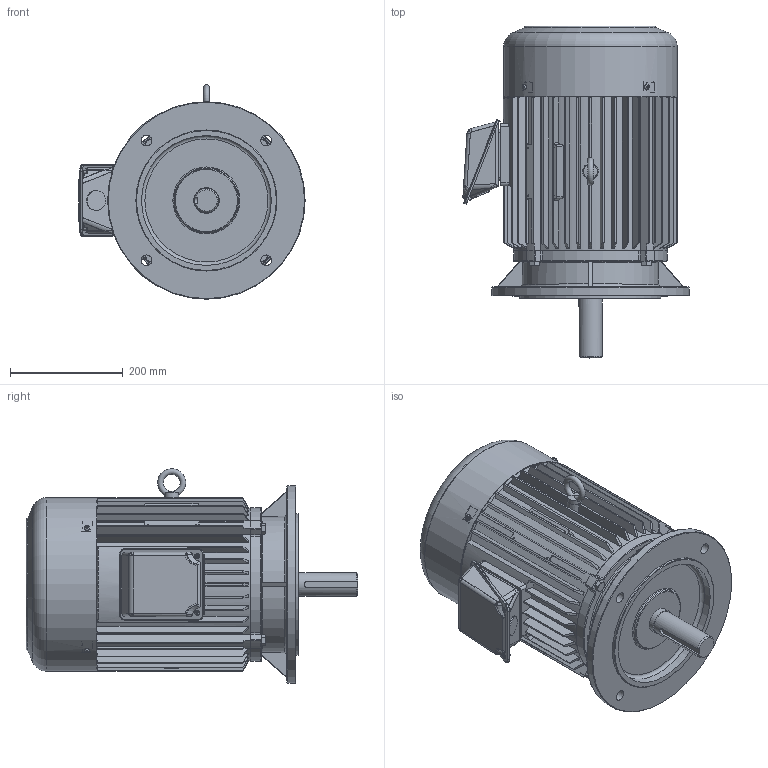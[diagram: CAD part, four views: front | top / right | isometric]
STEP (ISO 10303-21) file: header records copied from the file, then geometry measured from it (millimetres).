
FILE_DESCRIPTION(/* description */ ('Unknown'),/* implementation_level */ '2;1');
FILE_NAME(/* name */ '1-SMA33835_외형도(260DIA)',/* time_stamp */ '2026-07-24T09:02:12+09:00',/* author */ ('Unknown'),/* organization */ ('Unknown'),/* preprocessor_version */ 'ST-DEVELOPER v16',/* originating_system */ 'DEX',/* authorisation */ $);
FILE_SCHEMA (('AUTOMOTIVE_DESIGN {1 0 10303 214 3 1 1}'));
Products named in the file (19): 1-SMA33835_寇屈档(260DI@; 2-SMA-31037_FRAME(260DIA); 3-SMA-31038_擅粽塭鰍(260D; 4-SMA-31034_菴粽塭鰍(260D; 5-SMA-31035_SHAFT(260DIA); 7-SMA-31036_FAN COVER(260DIA); 6-SMA-31245_FAN(248, 260DIA); I杭飘 M12x1.75x22f鯃	; 幫陝獐お M10x1.5x; 菅斬 褊濠 M6x1x; 蹴辨 S3; 6308ZZ; 5.5~15kW(7.5~20HP)_ﾅﾍｹﾌｳﾎ ｹﾚｽｺ(205~2600ﾑｱ ; 8-SMA-33050_T-BOX(鼻)(205~260DIA); 9-SMA-33051_T-BOX(ﾇﾏ)(205~260DIA)ﾛ剽	; 褊濠 菅斬 該葬 獐お M5x; T-BOX 歜衛 馨檜綰斜楠萄(205~,; T-BOX 憶っ(205~260DIA) V~; 6309ZZ
Assembly tree (29 placements, depth 3):
  1-SMA33835_寇屈档(260DI@
    2-SMA-31037_FRAME(260DIA)
    3-SMA-31038_擅粽塭鰍(260D
    4-SMA-31034_菴粽塭鰍(260D
    5-SMA-31035_SHAFT(260DIA)
    7-SMA-31036_FAN COVER(260DIA)
    6-SMA-31245_FAN(248, 260DIA)
    I杭飘 M12x1.75x22f鯃	
    幫陝獐お M10x1.5x  x8
    菅斬 褊濠 M6x1x  x4
    蹴辨 S3
    6308ZZ
    5.5~15kW(7.5~20HP)_ﾅﾍｹﾌｳﾎ ｹﾚｽｺ(205~2600ﾑｱ 
      8-SMA-33050_T-BOX(鼻)(205~260DIA)
      9-SMA-33051_T-BOX(ﾇﾏ)(205~260DIA)ﾛ剽	
      褊濠 菅斬 該葬 獐お M5x  x2
      T-BOX 歜衛 馨檜綰斜楠萄(205~,
      T-BOX 憶っ(205~260DIA) V~
    6309ZZ
Bounding box: 400.99 x 587.99 x 379.99 mm (x, y, z)
Volume: 6739011.6 mm3; surface area: 2235803.6 mm2
Topology: 50 solids, 50 shells, 2107 faces, 5391 edges, 3421 vertices
Faces by surface type: plane 703, cylinder 612, cone 415, torus 187, bspline 168, sphere 22
Full cylindrical faces by diameter (mm): 2.2 x4, 2.5 x2, 4.134 x2, 4.917 x6, 5 x2, 6 x10, 6.6 x4, 7 x2, 8.376 x16, 9 x2, 10 x18, 10.106 x2, 12 x10, 19 x4, 25 x1, 34.9 x1, 35 x3, 39.8 x1, 40 x4, 40.8 x1, 42 x1, 44.8 x1, 45 x2, 45.6 x1, 46.1 x1, 49 x1, 53 x1, 54.286 x2, 54.686 x2, 57 x2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
Entity records: 83444 total; most frequent: CARTESIAN_POINT 35373, ORIENTED_EDGE 9192, DIRECTION 8667, EDGE_CURVE 4596, AXIS2_PLACEMENT_3D 3532, VERTEX_POINT 3053, FACE_BOUND 2319, EDGE_LOOP 2290
